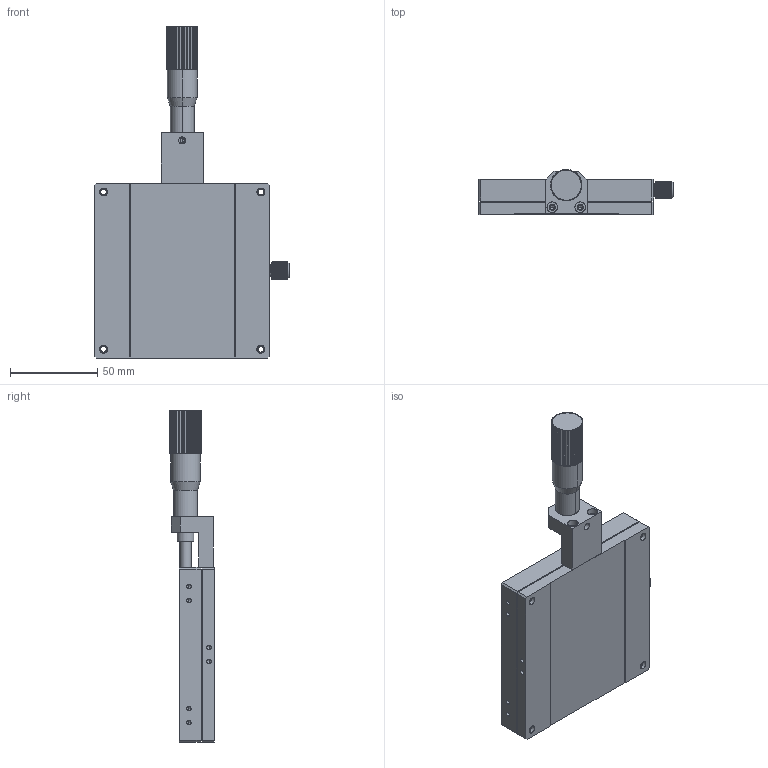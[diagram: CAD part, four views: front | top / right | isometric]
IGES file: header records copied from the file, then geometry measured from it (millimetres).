
Start section: SolidWorks IGES file using analytic representation for surfaces
Bounding box: 111.2 x 25.49 x 190 mm (x, y, z)
Surface area: 61687.9 mm2 (no closed solid volume)
Topology: 0 solids, 0 shells, 612 faces, 7227 edges, 7199 vertices
Faces by surface type: revolution 429, bspline 183
